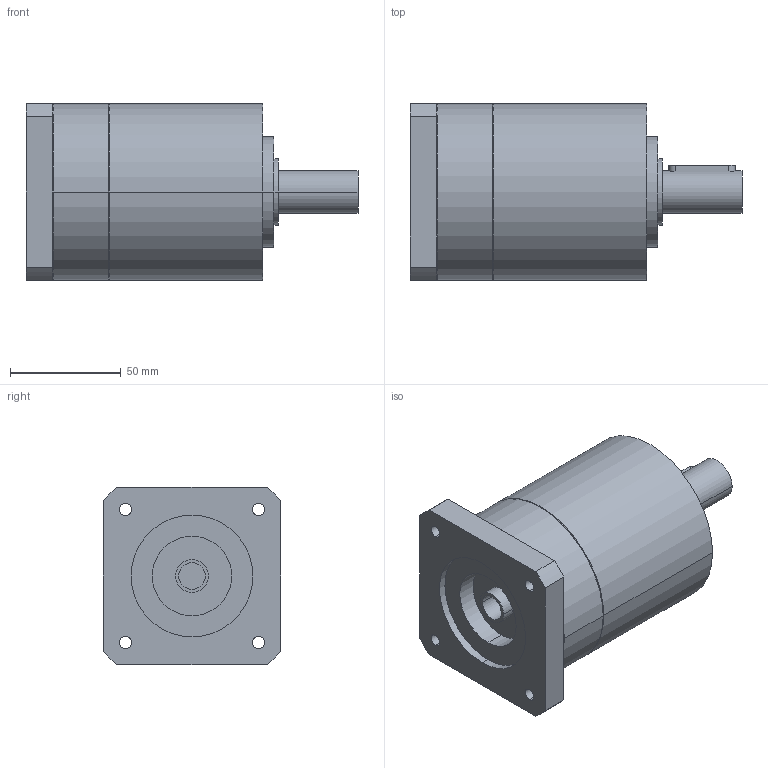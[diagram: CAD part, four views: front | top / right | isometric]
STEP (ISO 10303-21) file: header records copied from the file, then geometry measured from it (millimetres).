
FILE_DESCRIPTION(('CoCreate Modeling STEP Export'),'2;1');
FILE_NAME('GPR100_ig-3-4-5-6_19_B14_12.7_P20.stp','2014-08-26T10:06:31',(''),(''),'CoCreate Modeling STEP processor for AP214 (Solid Model)','CoCreate Modeling 16.00C 25-Feb-2009 (C) Parametric Technology GmbH','');
FILE_SCHEMA(('AUTOMOTIVE_DESIGN { 1 0 10303 214 1 1 1 1 }'));
Length unit declared in the file: millimetre
Products named in the file (2): GPR100_ig-3-4-5-6_19_B14_12.7_P20
Assembly tree (1 placements, depth 2):
  GPR100_ig-3-4-5-6_19_B14_12.7_P20
    GPR100_ig-3-4-5-6_19_B14_12.7_P20
Bounding box: 150 x 80 x 80 mm (x, y, z)
Volume: 552832.5 mm3; surface area: 48898.4 mm2
Topology: 1 solids, 1 shells, 86 faces, 220 edges, 148 vertices
Faces by surface type: cylinder 50, plane 30, cone 6
Entity records: 2257 total; most frequent: ORIENTED_EDGE 436, CARTESIAN_POINT 406, DIRECTION 314, EDGE_CURVE 218, VERTEX_POINT 148, AXIS2_PLACEMENT_3D 120, EDGE_LOOP 108, FACE_OUTER_BOUND 86
